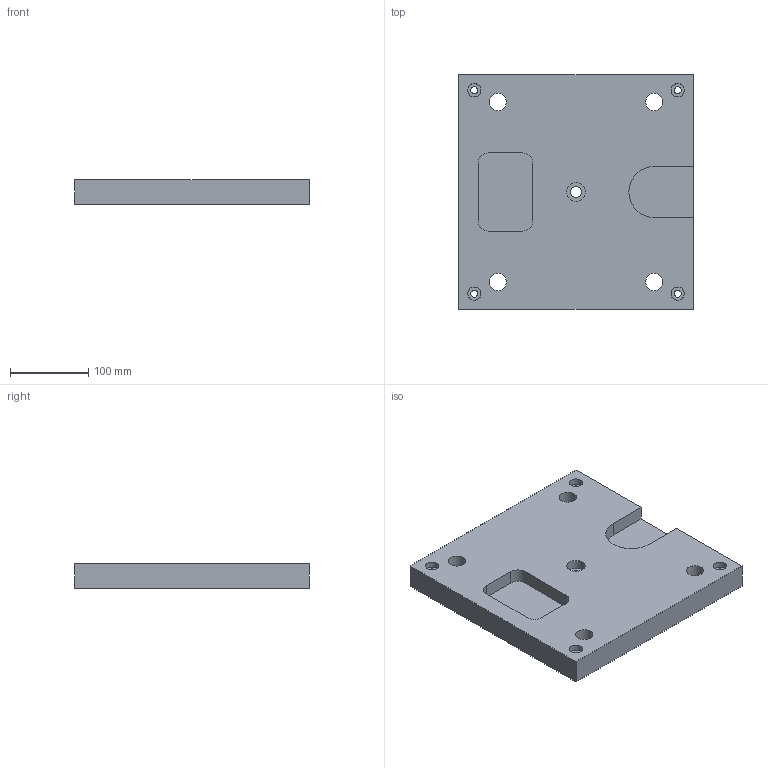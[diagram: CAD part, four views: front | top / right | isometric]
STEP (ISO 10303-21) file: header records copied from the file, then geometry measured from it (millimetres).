
FILE_DESCRIPTION(/* description */ (''),/* implementation_level */ '2;1');
FILE_NAME(/* name */ 'plita.stp',/* time_stamp */ '2025-02-27T11:36:32+05:00',/* author */ (''),/* organization */ (''),/* preprocessor_version */ 'ST-DEVELOPER v18.102',/* originating_system */ 'SIEMENS PLM Software NX 2023',/* authorisation */ '');
FILE_SCHEMA (('AUTOMOTIVE_DESIGN { 1 0 10303 214 3 1 1 1 }'));
Length unit declared in the file: millimetre
Products named in the file (1): post_test_objects
Bounding box: 300 x 300 x 31.75 mm (x, y, z)
Volume: 2575745.7 mm3; surface area: 237376.9 mm2
Topology: 1 solids, 1 shells, 38 faces, 99 edges, 69 vertices
Faces by surface type: plane 19, cylinder 19
Full cylindrical faces by diameter (mm): 9 x4, 13.8 x1, 17 x4, 22 x4, 23.75 x1
Entity records: 1377 total; most frequent: DIRECTION 192, CARTESIAN_POINT 175, ORIENTED_EDGE 152, AXIS2_PLACEMENT_3D 77, EDGE_LOOP 76, EDGE_CURVE 76, VERTEX_POINT 60, FACE_BOUND 59
